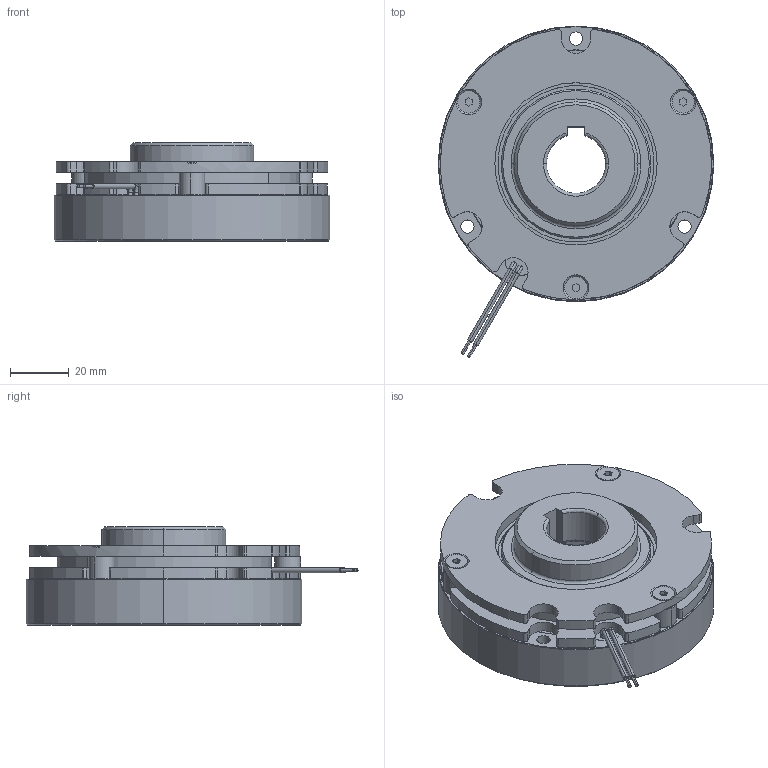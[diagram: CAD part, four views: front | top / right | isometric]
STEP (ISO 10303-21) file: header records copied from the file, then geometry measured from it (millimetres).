
FILE_DESCRIPTION (( 'STEP AP214' ), '1' );
FILE_NAME ('ÌÞÚ°·_BXR-08-20_B.STEP', '2017-08-01T08:22:34', ( 'MIKI' ), ( '' ), 'SwSTEP 2.0', 'SolidWorks 2012', '' );
FILE_SCHEMA (( 'AUTOMOTIVE_DESIGN' ));
Length unit declared in the file: millimetre
Products named in the file (1): 枌痚愷BXR-08-20_B
Bounding box: 93.5 x 112.56 x 33.5 mm (x, y, z)
Volume: 133384.1 mm3; surface area: 44830.4 mm2
Topology: 1 solids, 4 shells, 312 faces, 773 edges, 491 vertices
Faces by surface type: cylinder 160, plane 85, cone 53, torus 14
Entity records: 12948 total; most frequent: DIRECTION 1814, CARTESIAN_POINT 1630, ORIENTED_EDGE 1546, EDGE_CURVE 773, AXIS2_PLACEMENT_3D 737, VERTEX_POINT 491, CIRCLE 424, EDGE_LOOP 372
